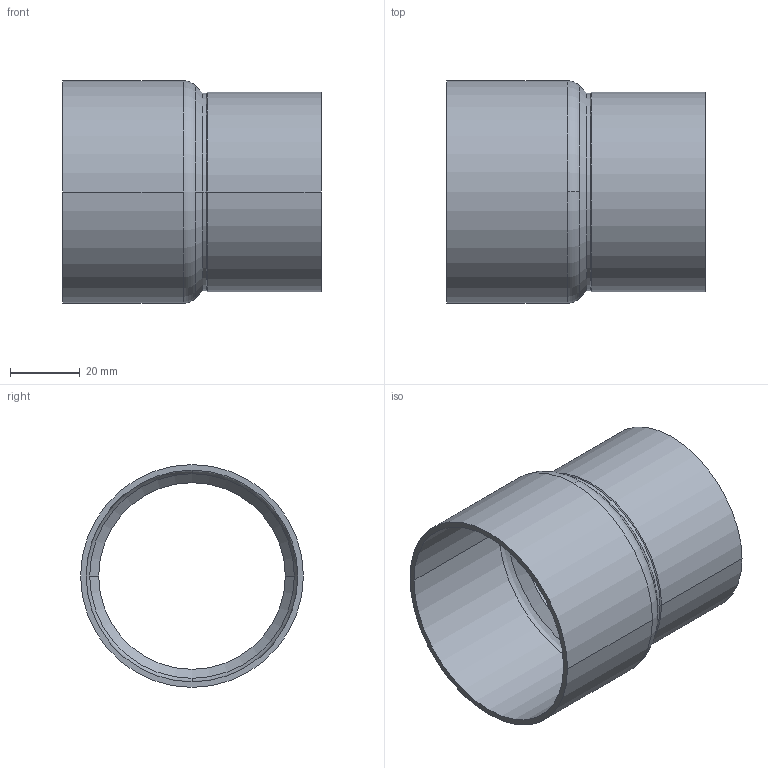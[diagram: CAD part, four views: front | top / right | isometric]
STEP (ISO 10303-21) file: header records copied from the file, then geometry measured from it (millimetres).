
FILE_DESCRIPTION((''),'2;1');
FILE_NAME('G:\Technics\CAD\Bauteile\Serie 15243\152436454.stp','2005-10-21T12:49:48',('boden'),(''),'Autodesk Inventor 8','Autodesk Inventor 8','');
FILE_SCHEMA(('AUTOMOTIVE_DESIGN { 1 0 10303 214 1 1 1 1 }'));
Length unit declared in the file: millimetre
Products named in the file (1): 152436454
Bounding box: 74.13 x 63.96 x 63.96 mm (x, y, z)
Volume: 22444.5 mm3; surface area: 28649 mm2
Topology: 1 solids, 1 shells, 26 faces, 60 edges, 36 vertices
Faces by surface type: cylinder 12, cone 8, bspline 2, torus 2, plane 2
Entity records: 855 total; most frequent: CARTESIAN_POINT 211, DIRECTION 150, ORIENTED_EDGE 120, AXIS2_PLACEMENT_3D 65, EDGE_CURVE 60, CIRCLE 40, VERTEX_POINT 36, EDGE_LOOP 28
